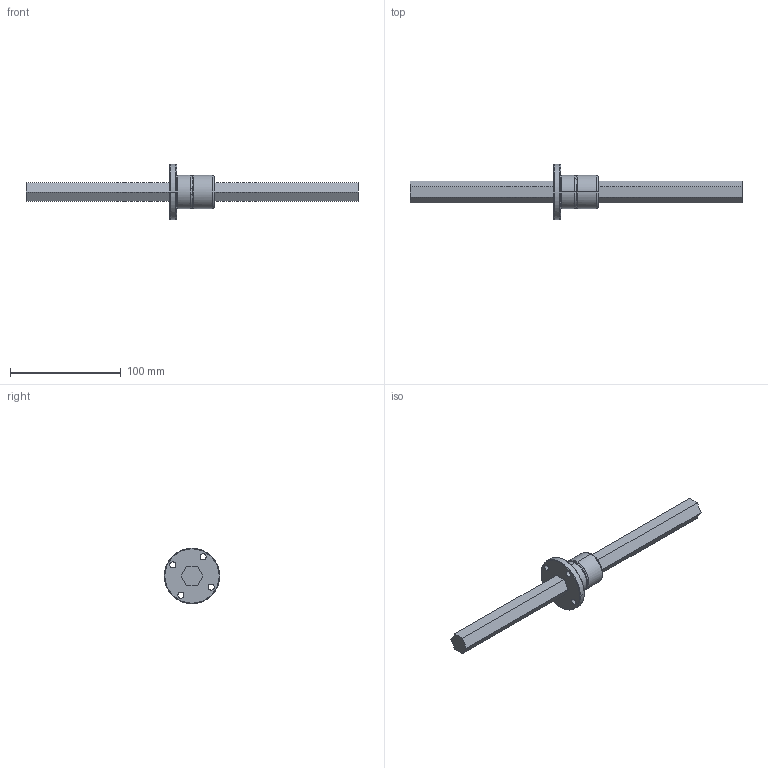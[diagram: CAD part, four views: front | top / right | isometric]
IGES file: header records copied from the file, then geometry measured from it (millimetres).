
Global section: file name: No Iges File Name specified; native system: AutoDesk Inventor R10; preprocessor: AutoDesk Inventor Iges Exporter R10; author: No Author specified; organization: No Organization specified; date: 20101224.162424; units: millimetre
Bounding box: 300 x 50 x 50 mm (x, y, z)
Surface area: 28355.4 mm2 (no closed solid volume)
Topology: 0 solids, 0 shells, 55 faces, 380 edges, 380 vertices
Faces by surface type: bspline 55
